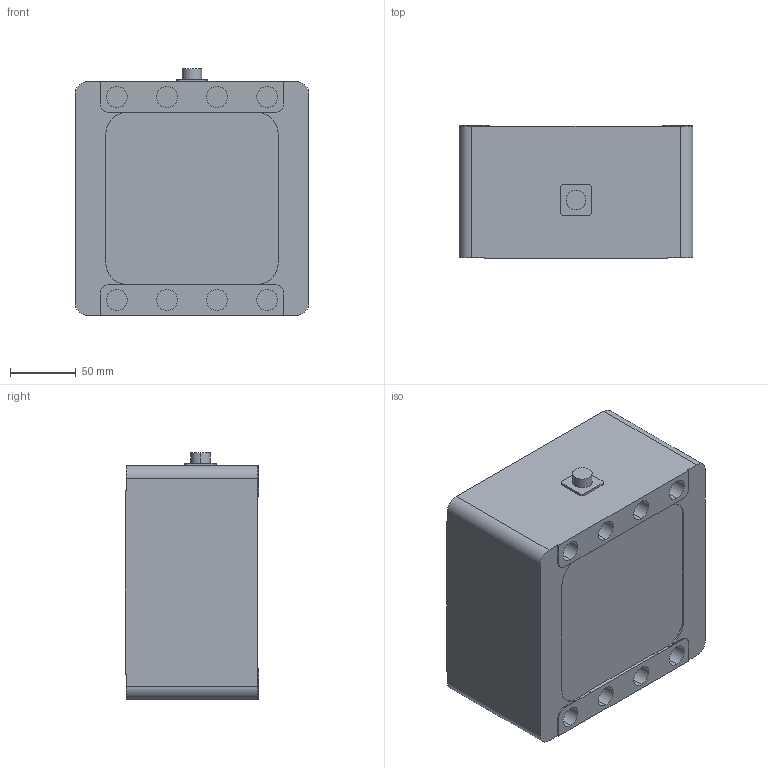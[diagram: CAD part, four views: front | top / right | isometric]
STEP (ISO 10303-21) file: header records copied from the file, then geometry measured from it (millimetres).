
FILE_DESCRIPTION (( 'STEP AP203' ), '1' );
FILE_NAME ('1007972.STEP', '2017-06-27T12:27:21', ( '' ), ( '' ), 'SwSTEP 2.0', 'SolidWorks 2014', '' );
FILE_SCHEMA (( 'CONFIG_CONTROL_DESIGN' ));
Length unit declared in the file: inch
Products named in the file (1): 1007972
Bounding box: 177.8 x 101.6 x 187.66 mm (x, y, z)
Volume: 2993382.4 mm3; surface area: 167585.5 mm2
Topology: 1 solids, 1 shells, 126 faces, 310 edges, 204 vertices
Faces by surface type: cylinder 66, plane 60
Entity records: 3898 total; most frequent: CARTESIAN_POINT 732, DIRECTION 671, ORIENTED_EDGE 620, EDGE_CURVE 310, AXIS2_PLACEMENT_3D 243, VERTEX_POINT 204, VECTOR 185, LINE 185
